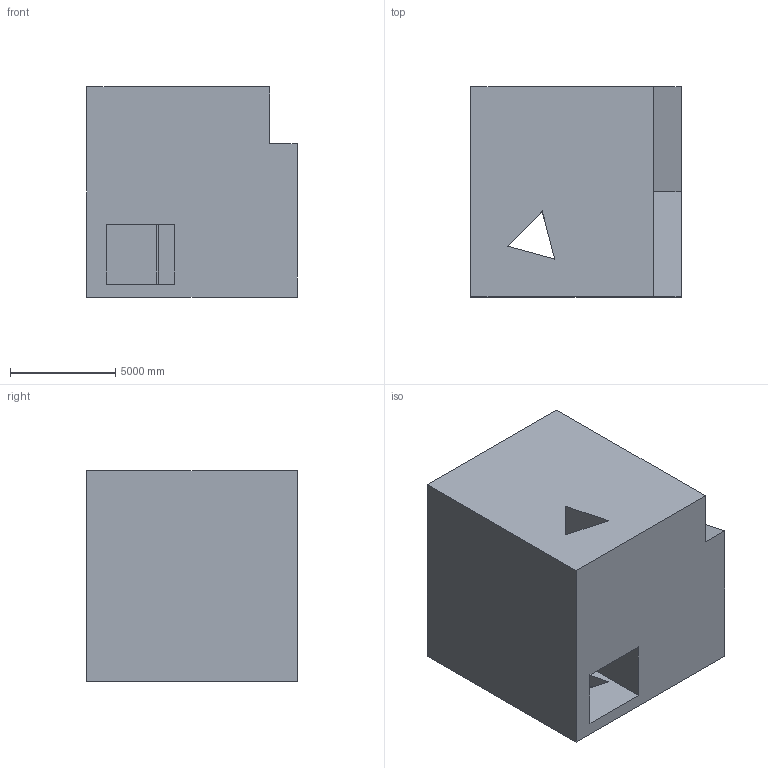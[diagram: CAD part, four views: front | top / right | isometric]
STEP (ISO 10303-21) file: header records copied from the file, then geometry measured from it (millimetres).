
FILE_DESCRIPTION (( 'STEP AP203' ), '1' );
FILE_NAME ('278.STEP', '2022-07-28T14:11:19', ( 'user' ), ( '' ), 'SwSTEP 2.0', 'SolidWorks 2021', '' );
FILE_SCHEMA (( 'CONFIG_CONTROL_DESIGN' ));
Length unit declared in the file: centimetre
Products named in the file (1): 278
Bounding box: 10000 x 10000 x 10000 mm (x, y, z)
Volume: 904139977978.4 mm3; surface area: 683319248 mm2
Topology: 1 solids, 1 shells, 19 faces, 54 edges, 36 vertices
Faces by surface type: plane 19
Entity records: 693 total; most frequent: CARTESIAN_POINT 110, ORIENTED_EDGE 108, DIRECTION 94, LINE 54, EDGE_CURVE 54, VECTOR 54, VERTEX_POINT 36, EDGE_LOOP 22
